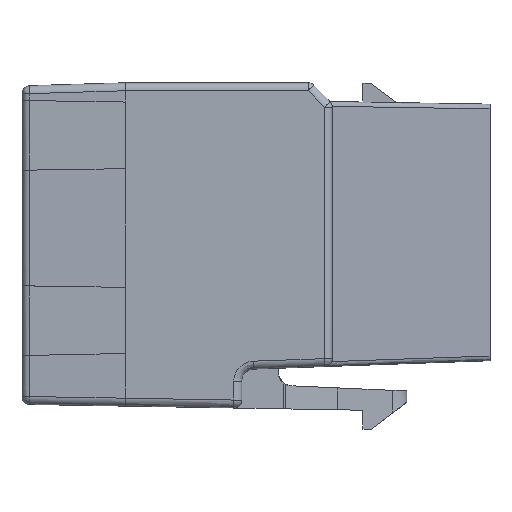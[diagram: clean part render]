
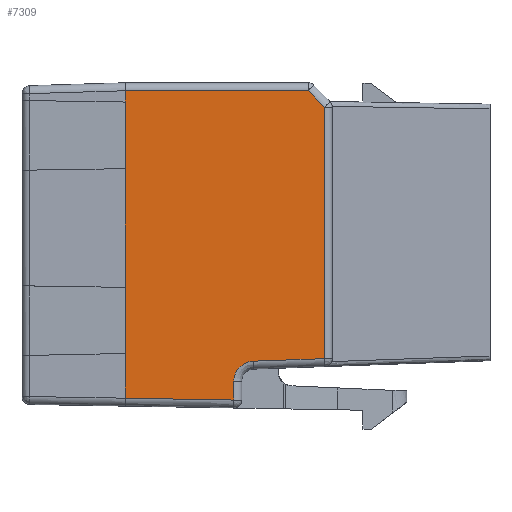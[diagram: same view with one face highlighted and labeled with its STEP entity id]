
A CAD part, front view. The second image highlights one B-rep face of the part: STEP entity #7309.
In plain terms, the highlighted free-form (B-spline) face has degree [1, 1] with [2, 2] control points.
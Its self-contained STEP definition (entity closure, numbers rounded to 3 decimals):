
#3918=CARTESIAN_POINT('',(6.473,0.,8.908));
#3919=VERTEX_POINT('',#3918);
#4382=CARTESIAN_POINT('',(6.473,0.,1.95));
#4383=VERTEX_POINT('',#4382);
#4529=CARTESIAN_POINT('',(6.473,0.,4.757));
#4530=VERTEX_POINT('',#4529);
#4929=CARTESIAN_POINT('',(6.473,0.,21.257));
#4930=VERTEX_POINT('',#4929);
#4998=CARTESIAN_POINT('',(6.473,0.,20.547));
#4999=VERTEX_POINT('',#4998);
#5000=CARTESIAN_POINT('',(6.473,0.,20.547));
#5001=CARTESIAN_POINT('',(6.473,0.,20.689));
#5002=CARTESIAN_POINT('',(6.473,0.,20.831));
#5003=CARTESIAN_POINT('',(6.473,0.,20.973));
#5004=CARTESIAN_POINT('',(6.473,0.,21.115));
#5005=CARTESIAN_POINT('',(6.473,0.,21.257));
#5006=B_SPLINE_CURVE_WITH_KNOTS('',5,(#5000,#5001,#5002,#5003,#5004,#5005),.UNSPECIFIED.,.F.,.U.,(6,6),(0.,0.71),.UNSPECIFIED.);
#5007=EDGE_CURVE('',#4999,#4930,#5006,.T.);
#5117=CARTESIAN_POINT('',(6.473,0.,16.362));
#5118=VERTEX_POINT('',#5117);
#5167=CARTESIAN_POINT('',(6.473,0.,8.908));
#5168=CARTESIAN_POINT('',(6.473,0.,10.399));
#5169=CARTESIAN_POINT('',(6.473,0.,11.89));
#5170=CARTESIAN_POINT('',(6.473,0.,13.381));
#5171=CARTESIAN_POINT('',(6.473,0.,14.872));
#5172=CARTESIAN_POINT('',(6.473,0.,16.362));
#5173=B_SPLINE_CURVE_WITH_KNOTS('',5,(#5167,#5168,#5169,#5170,#5171,#5172),.UNSPECIFIED.,.F.,.U.,(6,6),(0.,7.454),.UNSPECIFIED.);
#5174=EDGE_CURVE('',#3919,#5118,#5173,.T.);
#5208=CARTESIAN_POINT('',(6.473,0.,1.95));
#5209=CARTESIAN_POINT('',(6.473,0.,2.511));
#5210=CARTESIAN_POINT('',(6.473,0.,3.073));
#5211=CARTESIAN_POINT('',(6.473,0.,3.634));
#5212=CARTESIAN_POINT('',(6.473,0.,4.195));
#5213=CARTESIAN_POINT('',(6.473,0.,4.757));
#5214=B_SPLINE_CURVE_WITH_KNOTS('',5,(#5208,#5209,#5210,#5211,#5212,#5213),.UNSPECIFIED.,.F.,.U.,(6,6),(0.,2.807),.UNSPECIFIED.);
#5215=EDGE_CURVE('',#4383,#4530,#5214,.T.);
#5229=CARTESIAN_POINT('',(6.473,0.,4.757));
#5230=CARTESIAN_POINT('',(6.473,0.,5.587));
#5231=CARTESIAN_POINT('',(6.473,0.,6.417));
#5232=CARTESIAN_POINT('',(6.473,0.,7.248));
#5233=CARTESIAN_POINT('',(6.473,0.,8.078));
#5234=CARTESIAN_POINT('',(6.473,0.,8.908));
#5235=B_SPLINE_CURVE_WITH_KNOTS('',5,(#5229,#5230,#5231,#5232,#5233,#5234),.UNSPECIFIED.,.F.,.U.,(6,6),(0.,4.152),.UNSPECIFIED.);
#5236=EDGE_CURVE('',#4530,#3919,#5235,.T.);
#5289=CARTESIAN_POINT('',(6.473,0.,16.362));
#5290=CARTESIAN_POINT('',(6.473,0.,17.199));
#5291=CARTESIAN_POINT('',(6.473,0.,18.036));
#5292=CARTESIAN_POINT('',(6.473,0.,18.873));
#5293=CARTESIAN_POINT('',(6.473,0.,19.71));
#5294=CARTESIAN_POINT('',(6.473,0.,20.547));
#5295=B_SPLINE_CURVE_WITH_KNOTS('',5,(#5289,#5290,#5291,#5292,#5293,#5294),.UNSPECIFIED.,.F.,.U.,(6,6),(0.,4.185),.UNSPECIFIED.);
#5296=EDGE_CURVE('',#5118,#4999,#5295,.T.);
#5983=CARTESIAN_POINT('',(13.296,0.,1.833));
#5984=VERTEX_POINT('',#5983);
#6223=CARTESIAN_POINT('',(17.97,0.,21.257));
#6224=VERTEX_POINT('',#6223);
#6276=CARTESIAN_POINT('',(6.473,0.,21.257));
#6277=CARTESIAN_POINT('',(8.773,0.,21.257));
#6278=CARTESIAN_POINT('',(11.072,0.,21.257));
#6279=CARTESIAN_POINT('',(13.371,0.,21.257));
#6280=CARTESIAN_POINT('',(15.671,0.,21.257));
#6281=CARTESIAN_POINT('',(17.97,0.,21.257));
#6282=B_SPLINE_CURVE_WITH_KNOTS('',5,(#6276,#6277,#6278,#6279,#6280,#6281),.UNSPECIFIED.,.F.,.U.,(6,6),(0.,11.497),.UNSPECIFIED.);
#6283=EDGE_CURVE('',#4930,#6224,#6282,.T.);
#6412=CARTESIAN_POINT('',(18.985,0.,20.209));
#6413=VERTEX_POINT('',#6412);
#6508=CARTESIAN_POINT('',(18.985,0.,4.432));
#6509=VERTEX_POINT('',#6508);
#6563=CARTESIAN_POINT('',(18.985,0.,20.209));
#6564=CARTESIAN_POINT('',(18.985,0.,17.054));
#6565=CARTESIAN_POINT('',(18.985,0.,13.898));
#6566=CARTESIAN_POINT('',(18.985,0.,10.743));
#6567=CARTESIAN_POINT('',(18.985,0.,7.587));
#6568=CARTESIAN_POINT('',(18.985,0.,4.432));
#6569=B_SPLINE_CURVE_WITH_KNOTS('',5,(#6563,#6564,#6565,#6566,#6567,#6568),.UNSPECIFIED.,.F.,.U.,(6,6),(0.,15.778),.UNSPECIFIED.);
#6570=EDGE_CURVE('',#6413,#6509,#6569,.T.);
#6598=CARTESIAN_POINT('',(13.296,0.,2.994));
#6599=VERTEX_POINT('',#6598);
#6618=CARTESIAN_POINT('',(13.296,0.,2.994));
#6619=CARTESIAN_POINT('',(13.296,0.,2.762));
#6620=CARTESIAN_POINT('',(13.296,0.,2.529));
#6621=CARTESIAN_POINT('',(13.296,0.,2.297));
#6622=CARTESIAN_POINT('',(13.296,0.,2.065));
#6623=CARTESIAN_POINT('',(13.296,0.,1.833));
#6624=B_SPLINE_CURVE_WITH_KNOTS('',5,(#6618,#6619,#6620,#6621,#6622,#6623),.UNSPECIFIED.,.F.,.U.,(6,6),(0.,1.161),.UNSPECIFIED.);
#6625=EDGE_CURVE('',#6599,#5984,#6624,.T.);
#6646=CARTESIAN_POINT('',(14.532,0.,4.274));
#6647=VERTEX_POINT('',#6646);
#6666=CARTESIAN_POINT('',(14.532,0.,4.274));
#6667=CARTESIAN_POINT('',(14.434,0.,4.271));
#6668=CARTESIAN_POINT('',(14.336,0.,4.258));
#6669=CARTESIAN_POINT('',(14.24,0.,4.236));
#6670=CARTESIAN_POINT('',(14.052,0.,4.173));
#6671=CARTESIAN_POINT('',(13.88,0.,4.076));
#6672=CARTESIAN_POINT('',(13.799,0.,4.019));
#6673=CARTESIAN_POINT('',(13.649,0.,3.89));
#6674=CARTESIAN_POINT('',(13.526,0.,3.736));
#6675=CARTESIAN_POINT('',(13.472,0.,3.653));
#6676=CARTESIAN_POINT('',(13.381,0.,3.477));
#6677=CARTESIAN_POINT('',(13.324,0.,3.288));
#6678=CARTESIAN_POINT('',(13.306,0.,3.191));
#6679=CARTESIAN_POINT('',(13.296,0.,3.092));
#6680=CARTESIAN_POINT('',(13.296,0.,2.994));
#6681=B_SPLINE_CURVE_WITH_KNOTS('',5,(#6666,#6667,#6668,#6669,#6670,#6671,#6672,#6673,#6674,#6675,#6676,#6677,#6678,#6679,#6680),.UNSPECIFIED.,.F.,.U.,(6,3,3,3,6),(0.,0.384,0.768,1.152,1.535),.UNSPECIFIED.);
#6682=EDGE_CURVE('',#6647,#6599,#6681,.T.);
#6720=CARTESIAN_POINT('',(18.985,0.,4.432));
#6721=CARTESIAN_POINT('',(18.094,0.,4.4));
#6722=CARTESIAN_POINT('',(17.204,0.,4.369));
#6723=CARTESIAN_POINT('',(16.313,0.,4.337));
#6724=CARTESIAN_POINT('',(15.423,0.,4.306));
#6725=CARTESIAN_POINT('',(14.532,0.,4.274));
#6726=B_SPLINE_CURVE_WITH_KNOTS('',5,(#6720,#6721,#6722,#6723,#6724,#6725),.UNSPECIFIED.,.F.,.U.,(6,6),(0.,4.455),.UNSPECIFIED.);
#6727=EDGE_CURVE('',#6509,#6647,#6726,.T.);
#6832=CARTESIAN_POINT('',(17.97,0.,21.257));
#6833=CARTESIAN_POINT('',(18.173,0.,21.047));
#6834=CARTESIAN_POINT('',(18.376,0.,20.838));
#6835=CARTESIAN_POINT('',(18.579,0.,20.628));
#6836=CARTESIAN_POINT('',(18.782,0.,20.419));
#6837=CARTESIAN_POINT('',(18.985,0.,20.209));
#6838=B_SPLINE_CURVE_WITH_KNOTS('',5,(#6832,#6833,#6834,#6835,#6836,#6837),.UNSPECIFIED.,.F.,.U.,(6,6),(0.,1.458),.UNSPECIFIED.);
#6839=EDGE_CURVE('',#6224,#6413,#6838,.T.);
#7098=CARTESIAN_POINT('',(13.296,0.,1.833));
#7099=CARTESIAN_POINT('',(11.932,0.,1.856));
#7100=CARTESIAN_POINT('',(10.567,0.,1.88));
#7101=CARTESIAN_POINT('',(9.202,0.,1.903));
#7102=CARTESIAN_POINT('',(7.838,0.,1.926));
#7103=CARTESIAN_POINT('',(6.473,0.,1.95));
#7104=B_SPLINE_CURVE_WITH_KNOTS('',5,(#7098,#7099,#7100,#7101,#7102,#7103),.UNSPECIFIED.,.F.,.U.,(6,6),(0.,6.824),.UNSPECIFIED.);
#7105=EDGE_CURVE('',#5984,#4383,#7104,.T.);
#7290=CARTESIAN_POINT('',(6.473,0.,21.257));
#7291=CARTESIAN_POINT('',(18.985,0.,21.257));
#7292=CARTESIAN_POINT('',(6.473,0.,1.833));
#7293=CARTESIAN_POINT('',(18.985,0.,1.833));
#7294=B_SPLINE_SURFACE_WITH_KNOTS('',1,1,((#7290,#7291),(#7292,#7293)),.PLANE_SURF.,.F.,.F.,.U.,(2,2),(2,2),(0.,1.552),(0.,1.),.UNSPECIFIED.);
#7295=ORIENTED_EDGE('',*,*,#6283,.F.);
#7296=ORIENTED_EDGE('',*,*,#5007,.F.);
#7297=ORIENTED_EDGE('',*,*,#5296,.F.);
#7298=ORIENTED_EDGE('',*,*,#5174,.F.);
#7299=ORIENTED_EDGE('',*,*,#5236,.F.);
#7300=ORIENTED_EDGE('',*,*,#5215,.F.);
#7301=ORIENTED_EDGE('',*,*,#7105,.F.);
#7302=ORIENTED_EDGE('',*,*,#6625,.F.);
#7303=ORIENTED_EDGE('',*,*,#6682,.F.);
#7304=ORIENTED_EDGE('',*,*,#6727,.F.);
#7305=ORIENTED_EDGE('',*,*,#6570,.F.);
#7306=ORIENTED_EDGE('',*,*,#6839,.F.);
#7307=EDGE_LOOP('',(#7295,#7296,#7297,#7298,#7299,#7300,#7301,#7302,#7303,#7304,#7305,#7306));
#7308=FACE_OUTER_BOUND('',#7307,.T.);
#7309=ADVANCED_FACE('',(#7308),#7294,.T.);
